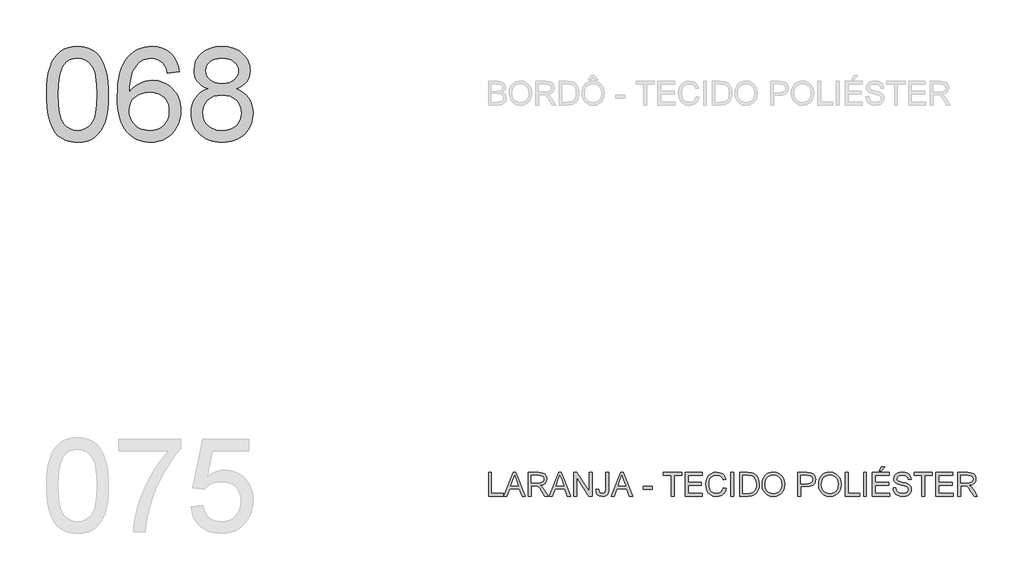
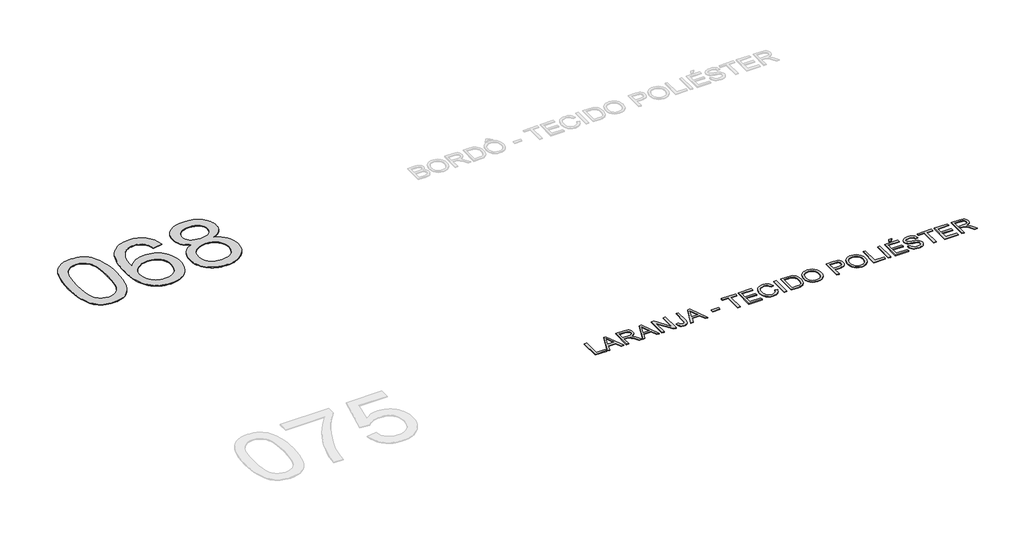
# One storey, part 8 of 35: 2 proxies.
"""IFC4 building model written with IfcOpenShell, lengths in millimetres."""

from ifc_helpers import new_model, si_unit, origin, origin_with_axes, place, context, project, spatial, polyline, outline, extrude, element, save

model = new_model("IFC4")

# Units and contexts
model_context = context("Model", 3, world=origin())
ifc_project = project(units=[si_unit("LENGTHUNIT", "METRE", prefix="MILLI")], contexts=[model_context])

# Site, building, storey
site = spatial("IfcSite", under=ifc_project)
building = spatial("IfcBuilding", under=site)
storey = spatial("IfcBuildingStorey", under=building, Name="Marelli - Linha YOU - Planta Baixa", Elevation=0.0)

# Proxies
placement = place(None, origin())
element("IfcBuildingElementProxy", 1, Name="1200mm Arial", ObjectType="1200mm Arial", at=placement, inside=storey, context=model_context, shape_type="SweptSolid", body=[
    extrude(outline(polyline([(-25181.1313792, -99895.792664), (-25178.3630672, -99794.4319773), (-25170.0581311, -99702.8385576), (-25156.2165711, -99621.0124048), (-25136.838387, -99548.953519), (-25112.0063523, -99486.073289), (-25081.8032405, -99431.7831035), (-25046.2290516, -99386.0829627), (-25005.2837855, -99348.9728664), (-24958.8294866, -99320.2596767), (-24906.728199, -99299.7502555), (-24848.9799228, -99287.4446027), (-24785.584658, -99283.3427185), (-24737.9439396, -99285.7707396), (-24692.7312424, -99293.0548031), (-24649.9465664, -99305.194909), (-24609.5899115, -99322.1910572), (-24572.6361651, -99343.7581391), (-24540.0602144, -99369.6110463), (-24511.8620595, -99399.7497788), (-24488.0417003, -99434.1743365), (-24467.4035204, -99472.7467637), (-24448.7519032, -99515.3291046), (-24417.4083572, -99612.5235278), (-24405.4337983, -99669.6831928), (-24396.8805419, -99735.9479371), (-24391.7485881, -99811.3177609), (-24390.0379368, -99895.792664), (-24392.7786576, -99996.5095573), (-24401.0008202, -100087.6431245), (-24414.7044246, -100169.1933658), (-24433.8894706, -100241.1602811), (-24458.5283672, -100304.0681023), (-24488.5935233, -100358.4410612), (-24524.0849388, -100404.2791578), (-24565.0026137, -100441.5823921), (-24611.5120949, -100470.4887199), (-24663.7789294, -100491.1360968), (-24721.8031171, -100503.524523), (-24785.584658, -100507.6539984), (-24828.2589694, -100505.8605737), (-24868.5788361, -100500.4802995), (-24906.544258, -100491.5131759), (-24942.1552351, -100478.9592028), (-24975.4117675, -100462.8183803), (-25006.3138551, -100443.0907083), (-25034.8614979, -100419.7761868), (-25061.054696, -100392.8748159), (-25089.1976686, -100350.2786794), (-25113.5882449, -100302.0999336), (-25134.2264248, -100248.3385785), (-25151.1122084, -100188.9946142), (-25164.2455956, -100124.0680406), (-25173.6265865, -100053.5588577), (-25179.255181, -99977.4670655), (-25181.1313792, -99895.792664)]), holes=[polyline([(-25030.446914, -99895.4983584), (-25026.03233, -100026.4919399), (-25012.7885782, -100132.5247279), (-25002.8557643, -100176.1808245), (-24990.7156585, -100213.5967226), (-24976.3682607, -100244.7724225), (-24959.8135709, -100269.7079239), (-24922.4367602, -100307.884878), (-24880.9396711, -100335.1541309), (-24835.3223037, -100351.5156826), (-24785.584658, -100356.9695332), (-24735.8470122, -100351.4972885), (-24690.2296448, -100335.0805545), (-24648.7325558, -100307.7193311), (-24611.3557451, -100269.4136183), (-24594.8010553, -100244.418336), (-24580.4536575, -100213.2104465), (-24568.3135516, -100175.7899498), (-24558.3807378, -100132.1568459), (-24545.1369859, -100026.2528166), (-24540.722402, -99895.4983584), (-24544.9898331, -99767.9720648), (-24557.7921266, -99663.8062779), (-24567.3938467, -99620.4835744), (-24579.1292823, -99583.0009976), (-24592.9984335, -99551.3585475), (-24609.0013003, -99525.5562241), (-24645.7527116, -99485.5122689), (-24687.7280473, -99456.9094438), (-24734.9273073, -99439.7477487), (-24787.3504916, -99434.0271837), (-24836.8306199, -99439.067167), (-24881.6754351, -99454.187117), (-24921.8849372, -99479.3870337), (-24957.4591261, -99514.666917), (-24974.5656389, -99543.2145599), (-24989.3912833, -99577.2068562), (-25001.9360594, -99616.6438061), (-25012.199967, -99661.5254095), (-25025.8851772, -99767.6225769), (-25030.446914, -99895.4983584)])]), origin_with_axes(), (0.0, 0.0, 1.0), 10.0),
    extrude(outline(polyline([(-23485.9311454, -99603.5472071), (-23636.6156107, -99622.3827652), (-23647.6888587, -99582.0812927), (-23660.8958223, -99547.7027202), (-23676.2365015, -99519.2470479), (-23693.7108963, -99496.7142757), (-23726.102906, -99469.2886729), (-23762.063371, -99449.6989567), (-23801.5922914, -99437.9451269), (-23844.6896671, -99434.0271837), (-23880.2270679, -99436.3080521), (-23914.734399, -99443.1506572), (-23948.2116606, -99454.554999), (-23980.6588525, -99470.5210776), (-24010.2641561, -99496.6315022), (-24037.2758916, -99528.1681863), (-24061.694059, -99565.1311297), (-24083.5186584, -99607.5203326), (-24101.5908614, -99658.1316981), (-24114.7518398, -99719.7611293), (-24123.0015935, -99792.4086263), (-24126.3401226, -99876.0741891), (-24097.6177359, -99838.2099347), (-24065.8971108, -99805.5512106), (-24031.1782475, -99778.0980167), (-23993.461146, -99755.8503531), (-23953.7574816, -99738.6610669), (-23913.07893, -99726.3830053), (-23871.4254911, -99719.0161683), (-23828.7971649, -99716.560556), (-23791.8986008, -99718.2390176), (-23756.3979883, -99723.2744024), (-23722.2953273, -99731.6667104), (-23689.590618, -99743.4159416), (-23658.2838602, -99758.5220961), (-23628.375054, -99776.9851737), (-23599.8641993, -99798.8051745), (-23572.7512963, -99823.9820986), (-23547.9882395, -99851.81697), (-23526.5269236, -99881.6108131), (-23508.3673486, -99913.3636278), (-23493.5095145, -99947.0754142), (-23481.9534214, -99982.7461721), (-23473.6990691, -100020.3759017), (-23468.7464577, -100059.9646029), (-23467.0955873, -100101.5122757), (-23470.2041901, -100156.4462547), (-23479.5299987, -100209.4120649), (-23495.073013, -100260.4097065), (-23516.833233, -100309.4391794), (-23544.0381066, -100354.6702707), (-23575.9150814, -100394.2727675), (-23612.4641577, -100428.2466698), (-23653.6853352, -100456.5919775), (-23698.6956973, -100478.9316116), (-23746.6123272, -100494.8884932), (-23797.4352248, -100504.4626221), (-23851.1643902, -100507.6539984), (-23897.1657345, -100505.5386769), (-23940.9919764, -100499.1927125), (-23982.6431161, -100488.6161052), (-24022.1191534, -100473.8088549), (-24059.4200884, -100454.7709616), (-24094.5459212, -100431.5024254), (-24127.4966517, -100404.0032463), (-24158.2722798, -100372.2734242), (-24186.104852, -100335.6875598), (-24210.2264146, -100293.6202536), (-24230.6369675, -100246.0715057), (-24247.3365108, -100193.0413161), (-24260.3250445, -100134.5296848), (-24269.6025686, -100070.5366117), (-24275.169083, -100001.062097), (-24277.0245879, -99926.1061404), (-24274.9644487, -99842.1784618), (-24268.7840312, -99764.1828803), (-24258.4833353, -99692.1193959), (-24244.0623611, -99625.9880088), (-24225.5211085, -99565.7887188), (-24202.8595776, -99511.521526), (-24176.0777684, -99463.1864303), (-24145.1756808, -99420.7834319), (-24115.1611085, -99388.5707647), (-24082.6541357, -99360.6531198), (-24047.6547624, -99337.0304971), (-24010.1629886, -99317.7028968), (-23970.1788142, -99302.6703188), (-23927.7022393, -99291.9327631), (-23882.733264, -99285.4902296), (-23835.271888, -99283.3427185), (-23765.8709497, -99288.6586133), (-23703.055099, -99304.6062978), (-23646.824336, -99331.1857719), (-23597.1786608, -99368.3970358), (-23555.4608425, -99414.9892904), (-23523.0136505, -99469.7117372), (-23499.8370848, -99532.5643761), (-23485.9311454, -99603.5472071)]), holes=[polyline([(-24126.3401226, -100099.157831), (-24124.1604218, -100132.9202011), (-24117.6213193, -100165.9284131), (-24106.7228152, -100198.182467), (-24091.4649095, -100229.6823629), (-24072.5925631, -100258.9473756), (-24050.8507372, -100284.4967801), (-24026.2394317, -100306.3305766), (-23998.7586467, -100324.4487648), (-23968.5831261, -100338.676601), (-23935.8876137, -100348.8393411), (-23900.6721097, -100354.9369852), (-23862.9366141, -100356.9695332), (-23810.559415, -100352.7572843), (-23763.4981108, -100340.1205378), (-23721.7527014, -100319.0592936), (-23685.3231868, -100289.5735517), (-23655.7730656, -100252.8589286), (-23634.6658361, -100210.1110407), (-23622.0014984, -100161.3298882), (-23617.7800525, -100106.5154709), (-23621.9463161, -100053.8439662), (-23634.4451069, -100007.0769676), (-23655.2764249, -99966.214475), (-23684.44027, -99931.2564884), (-23720.9801492, -99903.2514715), (-23763.9395692, -99883.247888), (-23813.31853, -99871.2457379), (-23869.1170316, -99867.2450212), (-23920.7952549, -99871.2457379), (-23968.4083821, -99883.247888), (-24011.9564133, -99903.2514715), (-24051.4393484, -99931.2564884), (-24084.2084371, -99965.7546225), (-24107.6149291, -100005.2375576), (-24121.6588242, -100049.7052938), (-24126.3401226, -100099.157831)])]), origin_with_axes(), (0.0, 0.0, 1.0), 10.0),
    extrude(outline(polyline([(-23115.6947055, -99824.8650154), (-23159.0404016, -99806.7652212), (-23196.371227, -99785.1337599), (-23227.6871819, -99759.9706314), (-23252.9882661, -99731.2758358), (-23272.4952089, -99699.3252845), (-23286.4287394, -99664.3948891), (-23294.7888578, -99626.4846495), (-23297.5755639, -99585.5945657), (-23291.505511, -99524.1398784), (-23283.9179448, -99495.3301197), (-23273.2953522, -99467.7987509), (-23259.6377331, -99441.545772), (-23242.9450876, -99416.571183), (-23200.4547172, -99370.4571749), (-23175.1674285, -99350.0397242), (-23147.865986, -99332.3446002), (-23118.5503895, -99317.371803), (-23087.2206391, -99305.1213326), (-23018.5186765, -99288.787372), (-22941.7600982, -99283.3427185), (-22864.6336379, -99288.9161307), (-22795.4166405, -99305.6363674), (-22763.7741904, -99318.1765449), (-22734.109106, -99333.5034285), (-22706.4213873, -99351.6170183), (-22680.7110344, -99372.5173141), (-22637.4481118, -99419.5326331), (-22620.4519636, -99444.8613085), (-22606.5460242, -99471.4039944), (-22595.7302935, -99499.1606909), (-22588.0047716, -99528.1313981), (-22583.3694585, -99558.3161158), (-22581.8243541, -99589.7148441), (-22584.574272, -99629.160991), (-22592.8240257, -99665.9767817), (-22606.5736153, -99700.1622161), (-22625.8230407, -99731.7172942), (-22650.6642724, -99760.2189518), (-22681.189281, -99785.2441245), (-22717.3980664, -99806.7928124), (-22759.2906286, -99824.8650154), (-22709.764515, -99845.9354566), (-22666.5475776, -99872.6528865), (-22629.6398164, -99905.0173051), (-22599.0412315, -99943.0287122), (-22575.0277342, -99985.8409794), (-22557.8752362, -100032.607978), (-22547.5837374, -100083.3297081), (-22544.1532378, -100138.0061697), (-22545.854692, -100176.3670647), (-22550.9590547, -100213.1644613), (-22559.4663258, -100248.3983594), (-22571.3765054, -100282.068759), (-22586.6895935, -100314.1756601), (-22605.40559, -100344.7190628), (-22627.5244949, -100373.6989669), (-22653.0463083, -100401.1153726), (-22681.3456308, -100426.085363), (-22711.797063, -100447.7260214), (-22744.4006048, -100466.0373477), (-22779.1562563, -100481.019342), (-22816.0640175, -100492.6720042), (-22855.1238883, -100500.9953343), (-22896.3358688, -100505.9893324), (-22939.699959, -100507.6539984), (-22983.0640492, -100505.9824346), (-23024.2760297, -100500.9677432), (-23063.3359005, -100492.6099241), (-23100.2436617, -100480.9089774), (-23134.9993132, -100465.864903), (-23167.602855, -100447.4777011), (-23198.0542872, -100425.7473715), (-23226.3536096, -100400.6739142), (-23251.875423, -100373.1034579), (-23273.994328, -100343.8821312), (-23292.7103245, -100313.009934), (-23308.0234126, -100280.4868664), (-23319.9335922, -100246.3129283), (-23328.4408633, -100210.4881198), (-23333.545226, -100173.0124408), (-23335.2466802, -100133.8858913), (-23331.6782249, -100076.7170293), (-23320.9728588, -100024.4042096), (-23303.130582, -99976.9474322), (-23278.1513946, -99934.3466971), (-23246.5871194, -99897.3745566), (-23208.9895795, -99866.8035628), (-23165.3587748, -99842.6337157), (-23115.6947055, -99824.8650154)]), holes=[polyline([(-23146.8910987, -99590.0091496), (-23143.5525696, -99624.553269), (-23133.5369822, -99655.7864504), (-23116.8443367, -99683.7086938), (-23093.474633, -99708.3199993), (-23063.7221766, -99728.4063562), (-23027.8812732, -99742.753754), (-22985.9519228, -99751.3621927), (-22937.9341254, -99754.2316723), (-22891.1027474, -99751.3805868), (-22850.083905, -99742.8273304), (-22814.877598, -99728.5719031), (-22785.4838266, -99708.6143049), (-22762.3072609, -99684.5180342), (-22745.7525711, -99657.8465896), (-22735.8197573, -99628.5999709), (-22732.5088193, -99596.7781784), (-22735.9301219, -99563.714784), (-22746.1940295, -99533.3921106), (-22763.3005423, -99505.810158), (-22787.2496602, -99480.9689263), (-22817.3056192, -99460.4319139), (-22852.7326553, -99445.7626193), (-22893.5307686, -99436.9610426), (-22939.699959, -99434.0271837), (-22986.2278343, -99436.8966633), (-23027.2190856, -99445.5051019), (-23062.6737129, -99459.8524998), (-23092.5917162, -99479.9388567), (-23116.347696, -99504.0351274), (-23133.3162531, -99530.4122664), (-23143.4973873, -99559.0702739), (-23146.8910987, -99590.0091496)]), polyline([(-23184.562215, -100128.5883906), (-23182.9895195, -100157.6418712), (-23178.2714329, -100186.2354992), (-23159.3990865, -100242.0431979), (-23144.3986982, -100267.9328933), (-23124.5606616, -100290.7139859), (-23099.8849767, -100310.3864756), (-23070.3716437, -100326.9503624), (-23038.1819691, -100340.0837496), (-23005.4772597, -100349.4647405), (-22972.2575156, -100355.093335), (-22938.5227366, -100356.9695332), (-22884.0394131, -100353.0239988), (-22835.9572364, -100341.1873956), (-22794.2762063, -100321.4597236), (-22758.996323, -100293.8409828), (-22730.9269267, -100260.133795), (-22710.877358, -100222.140782), (-22698.8476167, -100179.8619437), (-22694.837703, -100133.2972801), (-22698.9763754, -100085.9876555), (-22711.3923928, -100042.9454621), (-22732.085755, -100004.1706998), (-22761.0564621, -99969.6633687), (-22797.2928387, -99941.336455), (-22839.7832091, -99921.1029453), (-22888.5275735, -99908.9628395), (-22943.5259317, -99904.9161375), (-22997.2091119, -99908.9076572), (-23044.6566922, -99920.8822161), (-23085.8686727, -99940.8398144), (-23120.8450534, -99968.7804519), (-23148.7213116, -100002.7175659), (-23168.6329246, -100040.6645937), (-23180.5798924, -100082.6215353), (-23184.562215, -100128.5883906)])]), origin_with_axes(), (0.0, 0.0, 1.0), 10.0),
])
element("IfcBuildingElementProxy", 2, Name="300mm Arial", ObjectType="300mm Arial", at=placement, inside=storey, context=model_context, shape_type="SweptSolid", body=[
    extrude(outline(polyline([(-19536.4338573, -105030.5663201), (-19536.4338573, -104729.1973896), (-19498.762741, -104729.1973896), (-19498.762741, -104992.8952038), (-19348.0782757, -104992.8952038), (-19348.0782757, -105030.5663201), (-19536.4338573, -105030.5663201)])), origin_with_axes(), (0.0, 0.0, 1.0), 10.0),
    extrude(outline(polyline([(-19340.7942122, -105030.5663201), (-19220.4967998, -104729.1973896), (-19188.4174898, -104729.1973896), (-19068.1200774, -105030.5663201), (-19107.9249093, -105030.5663201), (-19142.4322404, -104936.3885293), (-19266.5556256, -104936.3885293), (-19300.9893804, -105030.5663201), (-19340.7942122, -105030.5663201)]), holes=[polyline([(-19252.7232626, -104898.717413), (-19156.1910271, -104898.717413), (-19183.3407183, -104824.6259792), (-19204.4571448, -104766.8685059), (-19223.2191266, -104818.1512561), (-19252.7232626, -104898.717413)])]), origin_with_axes(), (0.0, 0.0, 1.0), 10.0),
    extrude(outline(polyline([(-19027.8737871, -105030.5663201), (-19027.8737871, -104729.1973896), (-18898.0114428, -104729.1973896), (-18863.1086386, -104731.2299376), (-18837.7155838, -104737.3275817), (-18819.1559372, -104748.5847708), (-18804.7533571, -104766.0959537), (-18795.5103219, -104787.8101885), (-18792.4293102, -104811.6765329), (-18797.5336729, -104841.3646099), (-18812.846761, -104865.9759154), (-18824.4465401, -104876.0052983), (-18838.8284269, -104884.0205273), (-18875.9385231, -104894.0085235), (-18854.527791, -104910.1217548), (-18823.9935854, -104948.8965171), (-18773.7409049, -105030.5663201), (-18817.5188623, -105030.5663201), (-18856.735083, -104968.0999573), (-18885.0619966, -104926.750021), (-18904.9644126, -104907.2154871), (-18922.8802657, -104900.0417882), (-18944.7324562, -104898.717413), (-18990.2026708, -104898.717413), (-18990.2026708, -105030.5663201), (-19027.8737871, -105030.5663201)]), holes=[polyline([(-18990.2026708, -104861.0462967), (-18905.8841175, -104861.0462967), (-18881.6682852, -104859.7127245), (-18862.8787123, -104855.7120078), (-18848.7336496, -104848.7774322), (-18838.4513478, -104838.6422832), (-18832.1881569, -104826.3826157), (-18830.1004265, -104813.0744845), (-18834.0827491, -104794.6987789), (-18846.0297169, -104779.8915286), (-18866.5851234, -104770.1242616), (-18896.3927621, -104766.8685059), (-18990.2026708, -104766.8685059), (-18990.2026708, -104861.0462967)])]), origin_with_axes(), (0.0, 0.0, 1.0), 10.0),
    extrude(outline(polyline([(-18761.600799, -105030.5663201), (-18641.3033866, -104729.1973896), (-18609.2240766, -104729.1973896), (-18488.9266642, -105030.5663201), (-18528.7314961, -105030.5663201), (-18563.2388272, -104936.3885293), (-18687.3622124, -104936.3885293), (-18721.7959672, -105030.5663201), (-18761.600799, -105030.5663201)]), holes=[polyline([(-18673.5298494, -104898.717413), (-18576.9976139, -104898.717413), (-18604.1473051, -104824.6259792), (-18625.2637316, -104766.8685059), (-18644.0257134, -104818.1512561), (-18673.5298494, -104898.717413)])]), origin_with_axes(), (0.0, 0.0, 1.0), 10.0),
    extrude(outline(polyline([(-18448.6803739, -105030.5663201), (-18448.6803739, -104729.1973896), (-18408.3605073, -104729.1973896), (-18250.9070133, -104967.9528045), (-18250.9070133, -104729.1973896), (-18213.235897, -104729.1973896), (-18213.235897, -105030.5663201), (-18253.5557637, -105030.5663201), (-18411.0092576, -104791.7373288), (-18411.0092576, -105030.5663201), (-18448.6803739, -105030.5663201)])), origin_with_axes(), (0.0, 0.0, 1.0), 10.0),
    extrude(outline(polyline([(-18166.1470016, -104945.9534612), (-18128.4758853, -104941.0974188), (-18124.5579421, -104968.4862334), (-18115.6000155, -104985.6111403), (-18101.9148053, -104994.605855), (-18083.8150111, -104997.6040933), (-18069.8998747, -104995.9026391), (-18058.0264833, -104990.7982764), (-18048.8662216, -104982.7600548), (-18043.0904743, -104972.2570238), (-18039.0069841, -104934.9170013), (-18039.0069841, -104729.1973896), (-18001.3358678, -104729.1973896), (-18001.3358678, -104934.2548137), (-18003.6075391, -104967.7964546), (-18010.4225531, -104992.7848392), (-18022.1763828, -105011.0409832), (-18039.2645015, -105024.3859025), (-18060.7212189, -105032.5528828), (-18085.5808447, -105035.2752096), (-18120.4008755, -105029.6558121), (-18134.3482017, -105022.6315653), (-18145.9870683, -105012.7976197), (-18155.1105418, -105000.1907636), (-18161.5116885, -104984.8477851), (-18166.1470016, -104945.9534612)])), origin_with_axes(), (0.0, 0.0, 1.0), 10.0),
    extrude(outline(polyline([(-17970.5073566, -105030.5663201), (-17850.2099442, -104729.1973896), (-17818.1306342, -104729.1973896), (-17697.8332218, -105030.5663201), (-17737.6380537, -105030.5663201), (-17772.1453848, -104936.3885293), (-17896.26877, -104936.3885293), (-17930.7025247, -105030.5663201), (-17970.5073566, -105030.5663201)]), holes=[polyline([(-17882.436407, -104898.717413), (-17785.9041714, -104898.717413), (-17813.0538627, -104824.6259792), (-17834.1702892, -104766.8685059), (-17852.932271, -104818.1512561), (-17882.436407, -104898.717413)])]), origin_with_axes(), (0.0, 0.0, 1.0), 10.0),
    extrude(outline(polyline([(-17563.4091407, -104941.0974188), (-17563.4091407, -104903.4263025), (-17445.6869023, -104903.4263025), (-17445.6869023, -104941.0974188), (-17563.4091407, -104941.0974188)])), origin_with_axes(), (0.0, 0.0, 1.0), 10.0),
    extrude(outline(polyline([(-17205.5335358, -105030.5663201), (-17205.5335358, -104766.8685059), (-17304.4202161, -104766.8685059), (-17304.4202161, -104729.1973896), (-17068.9757392, -104729.1973896), (-17068.9757392, -104766.8685059), (-17167.8624195, -104766.8685059), (-17167.8624195, -105030.5663201), (-17205.5335358, -105030.5663201)])), origin_with_axes(), (0.0, 0.0, 1.0), 10.0),
    extrude(outline(polyline([(-17026.5957334, -105030.5663201), (-17026.5957334, -104729.1973896), (-16809.9868146, -104729.1973896), (-16809.9868146, -104766.8685059), (-16988.9246171, -104766.8685059), (-16988.9246171, -104856.3374072), (-16819.4045937, -104856.3374072), (-16819.4045937, -104894.0085235), (-16988.9246171, -104894.0085235), (-16988.9246171, -104992.8952038), (-16805.2779251, -104992.8952038), (-16805.2779251, -105030.5663201), (-17026.5957334, -105030.5663201)])), origin_with_axes(), (0.0, 0.0, 1.0), 10.0),
    extrude(outline(polyline([(-16536.8712214, -104923.4390831), (-16499.2001051, -104933.1511677), (-16506.654314, -104956.5783531), (-16516.5825294, -104977.0486868), (-16528.9847511, -104994.5621691), (-16543.8609793, -105009.1187997), (-16560.8755216, -105020.5622291), (-16579.6926856, -105028.7361071), (-16600.3124715, -105033.640434), (-16622.7348791, -105035.2752096), (-16666.4300631, -105030.3271968), (-16701.1305323, -105015.4831583), (-16727.7284005, -104991.2581289), (-16747.1157816, -104958.1671434), (-16758.9523848, -104919.2636224), (-16762.8979192, -104877.6009865), (-16758.4373501, -104833.6574822), (-16745.0556425, -104795.7104543), (-16723.4517723, -104764.9647166), (-16694.3247153, -104742.6250824), (-16659.780596, -104729.0226457), (-16621.9255387, -104724.4885001), (-16580.6215877, -104730.3562179), (-16562.6528515, -104737.6908652), (-16546.4729415, -104747.9593714), (-16532.3485721, -104760.8904235), (-16520.5464579, -104776.2127086), (-16503.9089946, -104814.0309777), (-16541.5801109, -104823.0072984), (-16554.6399218, -104795.5357104), (-16572.4821985, -104776.6909552), (-16595.3276704, -104765.7924511), (-16623.3970667, -104762.1596164), (-16655.7522881, -104766.1879242), (-16682.3317623, -104778.2728478), (-16702.5008927, -104797.1451941), (-16715.6250829, -104821.5357704), (-16722.8263729, -104849.1085259), (-16725.2268029, -104877.5274101), (-16722.3849145, -104912.3290468), (-16713.8592493, -104942.421794), (-16699.3279105, -104966.6560205), (-16678.4690013, -104983.8820949), (-16653.4622227, -104994.1735937), (-16626.4872754, -104997.6040933), (-16595.0425619, -104992.931992), (-16568.8401668, -104978.9156879), (-16549.0573125, -104955.702334), (-16536.8712214, -104923.4390831)])), origin_with_axes(), (0.0, 0.0, 1.0), 10.0),
    extrude(outline(polyline([(-16442.6934306, -105030.5663201), (-16442.6934306, -104729.1973896), (-16405.0223143, -104729.1973896), (-16405.0223143, -105030.5663201), (-16442.6934306, -105030.5663201)])), origin_with_axes(), (0.0, 0.0, 1.0), 10.0),
    extrude(outline(polyline([(-16329.6800817, -105030.5663201), (-16329.6800817, -104729.1973896), (-16225.7166299, -104729.1973896), (-16171.9322822, -104733.5383972), (-16147.9095879, -104741.9077126), (-16127.63929, -104755.0962821), (-16106.7987749, -104778.0521186), (-16091.9547364, -104806.5997614), (-16083.0703863, -104840.1873876), (-16080.1089362, -104878.2631741), (-16082.1138931, -104910.6091985), (-16088.1287637, -104939.0740679), (-16097.2890254, -104963.3082943), (-16108.7301554, -104982.9623899), (-16121.9003308, -104998.477813), (-16136.2477287, -105010.2960221), (-16152.719645, -105019.0608107), (-16172.263376, -105025.4159721), (-16220.7134348, -105030.5663201), (-16329.6800817, -105030.5663201)]), holes=[polyline([(-16292.0089654, -104992.8952038), (-16225.3487479, -104992.8952038), (-16197.7759924, -104991.5340404), (-16176.8619009, -104987.4505502), (-16161.0797633, -104980.8838566), (-16148.9028693, -104972.0730828), (-16135.8154673, -104955.7667134), (-16125.983821, -104934.6594839), (-16119.8309946, -104908.6594239), (-16117.7800525, -104877.6745629), (-16121.7991633, -104836.6189322), (-16133.8564957, -104806.3054558), (-16151.6711813, -104785.4833349), (-16172.9623518, -104772.9017706), (-16194.6306013, -104768.3768221), (-16226.3788175, -104766.8685059), (-16292.0089654, -104766.8685059), (-16292.0089654, -104992.8952038)])]), origin_with_axes(), (0.0, 0.0, 1.0), 10.0),
    extrude(outline(polyline([(-16042.4378199, -104883.8549804), (-16039.9270253, -104848.5061192), (-16032.3946414, -104817.213157), (-16019.8406683, -104789.9760937), (-16002.265106, -104766.7949295), (-15980.7210167, -104748.2858666), (-15956.2614625, -104735.0651074), (-15928.8864436, -104727.1326519), (-15898.5959598, -104724.4885001), (-15859.0670394, -104729.454907), (-15823.6216092, -104744.3541278), (-15794.1910495, -104768.1376988), (-15772.706741, -104799.7571563), (-15759.5733538, -104837.68579), (-15755.1955581, -104880.3968896), (-15759.80328, -104923.6782064), (-15773.626446, -104962.140269), (-15795.9017008, -104993.8149088), (-15825.8656893, -105016.733957), (-15861.0076169, -105030.6398965), (-15898.816689, -105035.2752096), (-15938.9526146, -105030.1524528), (-15974.60038, -105014.7841825), (-16003.9573632, -104990.5591531), (-16025.2209425, -104958.8661192), (-16038.1336005, -104922.3998164), (-16042.4378199, -104883.8549804)]), holes=[polyline([(-16004.7667036, -104884.2228624), (-16002.8836076, -104909.1974513), (-15997.2343197, -104931.3669401), (-15987.8188399, -104950.7313286), (-15974.6371682, -104967.2906169), (-15958.613608, -104980.5527628), (-15940.672463, -104990.0257242), (-15920.813733, -104995.709501), (-15899.0374182, -104997.6040933), (-15876.8886228, -104995.6911069), (-15856.7953681, -104989.9521478), (-15838.757654, -104980.3872159), (-15822.7754806, -104966.9963113), (-15809.6903779, -104950.0875351), (-15800.3438759, -104929.9689885), (-15794.7359747, -104906.6406715), (-15792.8666744, -104880.102584), (-15796.0672477, -104846.7540812), (-15805.6689678, -104817.9305269), (-15821.4235142, -104794.358488), (-15843.0825667, -104776.7645316), (-15869.2113854, -104765.8108452), (-15898.3752306, -104762.1596164), (-15919.3950881, -104763.9185522), (-15938.8974323, -104769.1953595), (-15956.8822634, -104777.9900385), (-15973.3495812, -104790.302589), (-15987.0945722, -104806.7262208), (-15996.912423, -104827.8541437), (-16002.8031334, -104853.6863575), (-16004.7667036, -104884.2228624)])]), origin_with_axes(), (0.0, 0.0, 1.0), 10.0),
    extrude(outline(polyline([(-15585.6755347, -105030.5663201), (-15585.6755347, -104729.1973896), (-15473.9865609, -104729.1973896), (-15428.9578047, -104732.0668692), (-15408.8806448, -104737.4287493), (-15392.3535462, -104746.1567496), (-15379.045415, -104758.6463433), (-15368.6251575, -104775.2930036), (-15361.892917, -104794.9287051), (-15359.6488368, -104816.3854225), (-15361.1640508, -104834.8852883), (-15365.7096927, -104851.9044291), (-15373.2857625, -104867.4428449), (-15383.8922603, -104881.5005356), (-15398.4534895, -104893.1531978), (-15417.8937537, -104901.476528), (-15442.2130529, -104906.470526), (-15471.411387, -104908.1351921), (-15548.0044184, -104908.1351921), (-15548.0044184, -105030.5663201), (-15585.6755347, -105030.5663201)]), holes=[polyline([(-15548.0044184, -104870.4640758), (-15469.204095, -104870.4640758), (-15435.8004098, -104867.005985), (-15413.7274901, -104856.6317127), (-15401.4218374, -104839.9850525), (-15397.3199531, -104817.7097977), (-15399.7387773, -104800.7872259), (-15406.9952496, -104786.5134045), (-15418.1880593, -104775.7712502), (-15432.4158955, -104769.4436799), (-15470.0870118, -104766.8685059), (-15548.0044184, -104766.8685059), (-15548.0044184, -104870.4640758)])]), origin_with_axes(), (0.0, 0.0, 1.0), 10.0),
    extrude(outline(polyline([(-15321.9777205, -104883.8549804), (-15319.4669259, -104848.5061192), (-15311.9345421, -104817.213157), (-15299.380569, -104789.9760937), (-15281.8050067, -104766.7949295), (-15260.2609173, -104748.2858666), (-15235.8013632, -104735.0651074), (-15208.4263442, -104727.1326519), (-15178.1358604, -104724.4885001), (-15138.60694, -104729.454907), (-15103.1615098, -104744.3541278), (-15073.7309502, -104768.1376988), (-15052.2466417, -104799.7571563), (-15039.1132544, -104837.68579), (-15034.7354587, -104880.3968896), (-15039.3431807, -104923.6782064), (-15053.1663467, -104962.140269), (-15075.4416015, -104993.8149088), (-15105.40559, -105016.733957), (-15140.5475176, -105030.6398965), (-15178.3565896, -105035.2752096), (-15218.4925153, -105030.1524528), (-15254.1402806, -105014.7841825), (-15283.4972638, -104990.5591531), (-15304.7608432, -104958.8661192), (-15317.6735012, -104922.3998164), (-15321.9777205, -104883.8549804)]), holes=[polyline([(-15284.3066042, -104884.2228624), (-15282.4235083, -104909.1974513), (-15276.7742204, -104931.3669401), (-15267.3587406, -104950.7313286), (-15254.1770688, -104967.2906169), (-15238.1535087, -104980.5527628), (-15220.2123636, -104990.0257242), (-15200.3536337, -104995.709501), (-15178.5773188, -104997.6040933), (-15156.4285234, -104995.6911069), (-15136.3352687, -104989.9521478), (-15118.2975546, -104980.3872159), (-15102.3153812, -104966.9963113), (-15089.2302785, -104950.0875351), (-15079.8837766, -104929.9689885), (-15074.2758754, -104906.6406715), (-15072.406575, -104880.102584), (-15075.6071484, -104846.7540812), (-15085.2088684, -104817.9305269), (-15100.9634149, -104794.358488), (-15122.6224673, -104776.7645316), (-15148.7512861, -104765.8108452), (-15177.9151312, -104762.1596164), (-15198.9349887, -104763.9185522), (-15218.437333, -104769.1953595), (-15236.422164, -104777.9900385), (-15252.8894818, -104790.302589), (-15266.6344729, -104806.7262208), (-15276.4523236, -104827.8541437), (-15282.3430341, -104853.6863575), (-15284.3066042, -104884.2228624)])]), origin_with_axes(), (0.0, 0.0, 1.0), 10.0),
    extrude(outline(polyline([(-14982.9376738, -105030.5663201), (-14982.9376738, -104729.1973896), (-14945.2665575, -104729.1973896), (-14945.2665575, -104992.8952038), (-14794.5820922, -104992.8952038), (-14794.5820922, -105030.5663201), (-14982.9376738, -105030.5663201)])), origin_with_axes(), (0.0, 0.0, 1.0), 10.0),
    extrude(outline(polyline([(-14747.4931969, -105030.5663201), (-14747.4931969, -104729.1973896), (-14709.8220806, -104729.1973896), (-14709.8220806, -105030.5663201), (-14747.4931969, -105030.5663201)])), origin_with_axes(), (0.0, 0.0, 1.0), 10.0),
    extrude(outline(polyline([(-14634.4798479, -105030.5663201), (-14634.4798479, -104729.1973896), (-14417.8709292, -104729.1973896), (-14417.8709292, -104766.8685059), (-14596.8087316, -104766.8685059), (-14596.8087316, -104856.3374072), (-14427.2887083, -104856.3374072), (-14427.2887083, -104894.0085235), (-14596.8087316, -104894.0085235), (-14596.8087316, -104992.8952038), (-14413.1620396, -104992.8952038), (-14413.1620396, -105030.5663201), (-14634.4798479, -105030.5663201)])), origin_with_axes(), (0.0, 0.0, 1.0), 10.0),
    extrude(outline(polyline([(-14549.7198363, -104710.3618315), (-14521.466499, -104653.855157), (-14474.3776036, -104653.855157), (-14521.466499, -104710.3618315), (-14549.7198363, -104710.3618315)])), origin_with_axes(), (0.0, 0.0, 1.0), 10.0),
    extrude(outline(polyline([(-14370.7820338, -104926.9707502), (-14333.1109175, -104926.9707502), (-14328.7883041, -104947.8756446), (-14320.9708117, -104964.6786547), (-14308.7755235, -104978.0143771), (-14291.3195228, -104988.517408), (-14269.9823671, -104995.332422), (-14246.1436138, -104997.6040933), (-14225.155946, -104995.884245), (-14206.7802404, -104990.7247), (-14191.8902166, -104982.5577197), (-14181.3595945, -104971.8155654), (-14175.0964035, -104959.4823216), (-14173.0086732, -104946.5420724), (-14174.5721717, -104933.932917), (-14179.2626671, -104923.0344129), (-14188.7908108, -104913.7361955), (-14204.867254, -104905.9279001), (-14259.7184595, -104891.5437141), (-14295.7249097, -104882.0247675), (-14318.7635197, -104872.9656733), (-14337.5163044, -104860.2921386), (-14350.8060415, -104844.9330653), (-14358.7247014, -104827.2195472), (-14361.3642547, -104807.4826782), (-14358.099302, -104785.4189555), (-14348.3044439, -104764.845155), (-14332.2371978, -104747.4075484), (-14310.155081, -104734.7524077), (-14283.6491832, -104727.054477), (-14254.3105941, -104724.4885001), (-14222.5255897, -104727.1740386), (-14194.7137109, -104735.2306543), (-14171.868239, -104748.4928003), (-14154.9824554, -104766.7949295), (-14144.2954835, -104788.9966079), (-14140.0464464, -104813.9574013), (-14177.7175627, -104813.9574013), (-14184.6337442, -104791.4798114), (-14199.0547185, -104775.2562154), (-14221.5874907, -104765.4337661), (-14252.8390662, -104762.1596164), (-14284.8264056, -104765.3969779), (-14306.7705666, -104775.1090626), (-14319.4624955, -104789.4012781), (-14323.6931384, -104806.3790322), (-14320.6949002, -104820.8551887), (-14311.7001854, -104832.4986539), (-14290.4366061, -104842.9097143), (-14250.1903158, -104853.541504), (-14208.6564385, -104863.6398648), (-14183.5300983, -104872.4506385), (-14162.0549868, -104886.1174547), (-14147.0729925, -104902.9848441), (-14138.2714158, -104922.868866), (-14135.3375569, -104945.5855792), (-14138.7128742, -104968.8081301), (-14148.8388261, -104990.6511236), (-14165.3015454, -105009.4498935), (-14187.6871648, -105023.539774), (-14214.6069298, -105032.3413507), (-14244.6720859, -105035.2752096), (-14281.579847, -105032.1114244), (-14311.9577028, -105022.620069), (-14336.155141, -105006.764355), (-14354.5216496, -104984.5074943), (-14366.3122676, -104957.3945912), (-14370.7820338, -104926.9707502)])), origin_with_axes(), (0.0, 0.0, 1.0), 10.0),
    extrude(outline(polyline([(-14003.4886498, -105030.5663201), (-14003.4886498, -104766.8685059), (-14102.3753301, -104766.8685059), (-14102.3753301, -104729.1973896), (-13866.9308532, -104729.1973896), (-13866.9308532, -104766.8685059), (-13965.8175335, -104766.8685059), (-13965.8175335, -105030.5663201), (-14003.4886498, -105030.5663201)])), origin_with_axes(), (0.0, 0.0, 1.0), 10.0),
    extrude(outline(polyline([(-13824.5508474, -105030.5663201), (-13824.5508474, -104729.1973896), (-13607.9419286, -104729.1973896), (-13607.9419286, -104766.8685059), (-13786.8797311, -104766.8685059), (-13786.8797311, -104856.3374072), (-13617.3597077, -104856.3374072), (-13617.3597077, -104894.0085235), (-13786.8797311, -104894.0085235), (-13786.8797311, -104992.8952038), (-13603.2330391, -104992.8952038), (-13603.2330391, -105030.5663201), (-13824.5508474, -105030.5663201)])), origin_with_axes(), (0.0, 0.0, 1.0), 10.0),
    extrude(outline(polyline([(-13546.7263646, -105030.5663201), (-13546.7263646, -104729.1973896), (-13416.8640203, -104729.1973896), (-13381.961216, -104731.2299376), (-13356.5681613, -104737.3275817), (-13338.0085146, -104748.5847708), (-13323.6059345, -104766.0959537), (-13314.3628994, -104787.8101885), (-13311.2818877, -104811.6765329), (-13316.3862504, -104841.3646099), (-13331.6993384, -104865.9759154), (-13343.2991176, -104876.0052983), (-13357.6810043, -104884.0205273), (-13394.7911006, -104894.0085235), (-13373.3803685, -104910.1217548), (-13342.8461629, -104948.8965171), (-13292.5934823, -105030.5663201), (-13336.3714398, -105030.5663201), (-13375.5876605, -104968.0999573), (-13403.9145741, -104926.750021), (-13423.81699, -104907.2154871), (-13441.7328432, -104900.0417882), (-13463.5850337, -104898.717413), (-13509.0552483, -104898.717413), (-13509.0552483, -105030.5663201), (-13546.7263646, -105030.5663201)]), holes=[polyline([(-13509.0552483, -104861.0462967), (-13424.736695, -104861.0462967), (-13400.5208627, -104859.7127245), (-13381.7312898, -104855.7120078), (-13367.5862271, -104848.7774322), (-13357.3039253, -104838.6422832), (-13351.0407343, -104826.3826157), (-13348.953004, -104813.0744845), (-13352.9353266, -104794.6987789), (-13364.8822944, -104779.8915286), (-13385.4377009, -104770.1242616), (-13415.2453395, -104766.8685059), (-13509.0552483, -104766.8685059), (-13509.0552483, -104861.0462967)])]), origin_with_axes(), (0.0, 0.0, 1.0), 10.0),
])

save(model, "model.ifc")
